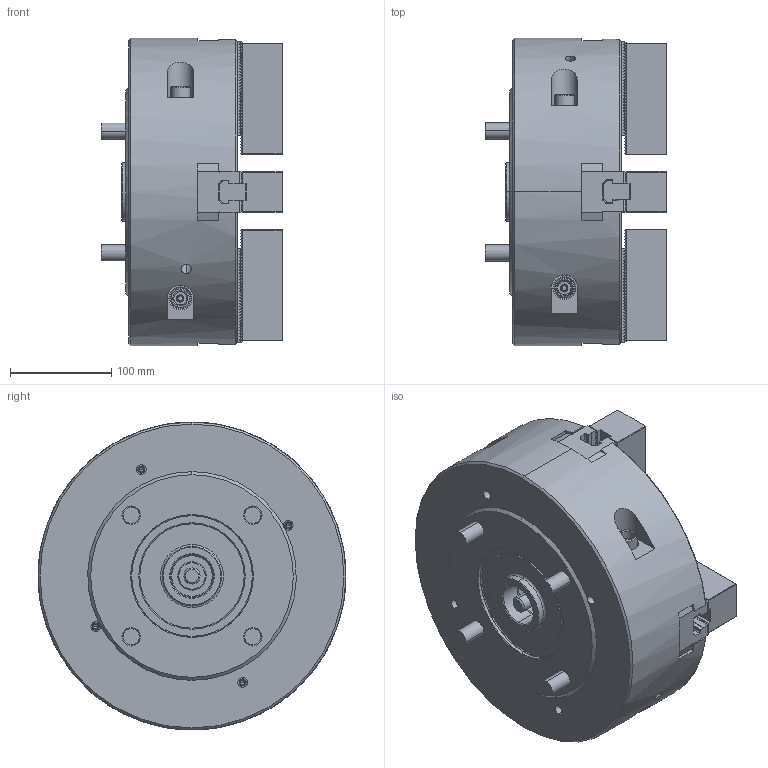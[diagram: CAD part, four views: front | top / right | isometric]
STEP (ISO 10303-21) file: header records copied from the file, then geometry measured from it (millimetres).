
FILE_DESCRIPTION (( 'STEP AP214' ), '1' );
FILE_NAME ('HW-12 61P2759870 ASSY_OC.STEP', '2023-10-13T02:18:39', ( '' ), ( '' ), 'SwSTEP 2.0', 'SolidWorks 2022', '' );
FILE_SCHEMA (( 'AUTOMOTIVE_DESIGN' ));
Length unit declared in the file: millimetre
Products named in the file (7): 61P335562-3_MASTER JAW 1-3_ﾃﾞﾌｫﾙﾄ; 61P335563-4_MASTER JAW 2-4_ﾃﾞﾌｫﾙﾄ; HW-12_BASE^61P275987-0_HW-12 ASSY_ﾃﾞﾌｫﾙﾄ; Ｂアナツキ M12x35_Bｱﾅﾂｷ M12X35; 61P400852_Ｔナット_ﾃﾞﾌｫﾙﾄ; HW-12 61P2759870 ASSY_OC; 61P322999_ソフトジョー_ﾃﾞﾌｫﾙﾄ
Assembly tree (21 placements, depth 2):
  HW-12 61P2759870 ASSY_OC
    61P335563-4_MASTER JAW 2-4_ﾃﾞﾌｫﾙﾄ  x2
    61P335562-3_MASTER JAW 1-3_ﾃﾞﾌｫﾙﾄ  x2
    61P400852_Ｔナット_ﾃﾞﾌｫﾙﾄ  x4
    61P322999_ソフトジョー_ﾃﾞﾌｫﾙﾄ  x4
    Ｂアナツキ M12x35_Bｱﾅﾂｷ M12X35  x8
    HW-12_BASE^61P275987-0_HW-12 ASSY_ﾃﾞﾌｫﾙﾄ
Bounding box: 179 x 304 x 304 mm (x, y, z)
Volume: 8668338.1 mm3; surface area: 641224.7 mm2
Topology: 21 solids, 37 shells, 4208 faces, 11646 edges, 7596 vertices
Faces by surface type: plane 3193, cylinder 612, cone 260, bspline 83, torus 60
Entity records: 76757 total; most frequent: CARTESIAN_POINT 17485, ORIENTED_EDGE 12476, DIRECTION 11510, EDGE_CURVE 6238, LINE 4764, VECTOR 4764, VERTEX_POINT 4046, AXIS2_PLACEMENT_3D 3373
